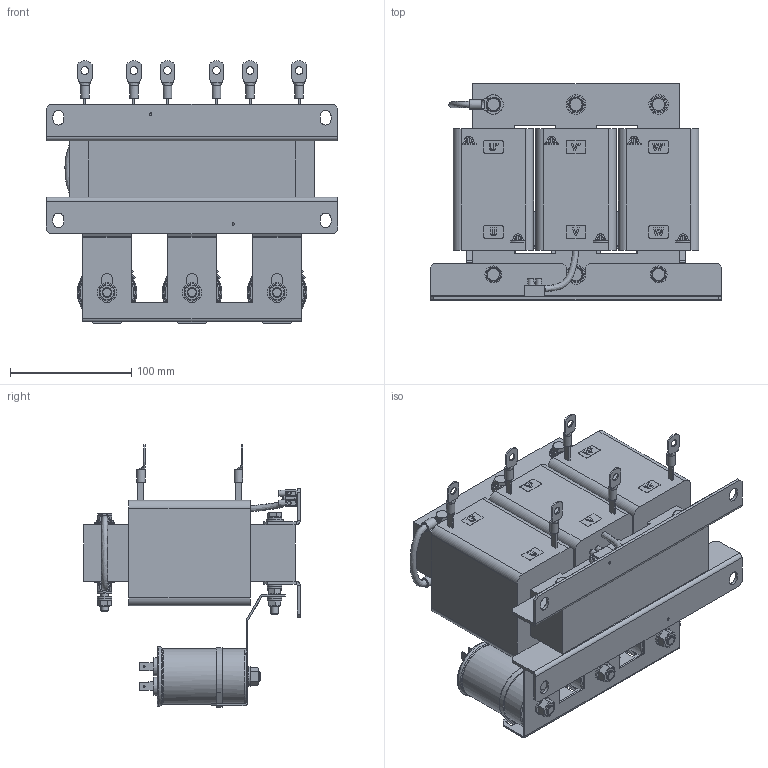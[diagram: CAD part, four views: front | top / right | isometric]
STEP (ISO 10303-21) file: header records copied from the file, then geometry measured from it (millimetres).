
FILE_DESCRIPTION(/* description */ (''),/* implementation_level */ '2;1');
FILE_NAME(/* name */ 'C:\Users\Erika.Jenzer\OneDrive - Schaffner EMV AG\BELLA\STEP FILES BELLA\FN\FN5420-32-92-E0XXT.stp',/* time_stamp */ '2021-07-12T08:38:44+02:00',/* author */ ('erika.jenzer'),/* organization */ (''),/* preprocessor_version */ 'ST-DEVELOPER v18.1',/* originating_system */ 'Autodesk Inventor 2020',/* authorisation */ '');
FILE_SCHEMA (('AUTOMOTIVE_DESIGN { 1 0 10303 214 3 1 1 }'));
Products named in the file (1): FN5420-32-92-E0XXT
Bounding box: 240 x 178 x 216.05 mm (x, y, z)
Volume: 2752456.4 mm3; surface area: 317341 mm2
Topology: 2 solids, 12 shells, 2143 faces, 5810 edges, 3879 vertices
Faces by surface type: plane 1501, cylinder 349, bspline 143, cone 121, torus 28, sphere 1
Full cylindrical faces by diameter (mm): 0.01 x2, 1.6 x12, 2.013 x2, 2.5 x1, 2.8 x5, 3.4 x4, 4.5 x6, 5.19 x2, 5.459 x2, 5.8 x2, 6 x21, 6.1 x7, 6.4 x22, 6.5 x2, 6.6 x10, 7 x6, 7.6 x5, 8 x7, 8.2 x2, 8.4 x3, 8.5 x4, 8.7 x6, 12 x14, 12.2 x6, 13 x1, 14 x5, 14.85 x6, 16 x7, 46 x3, 49 x3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
Entity records: 73842 total; most frequent: CARTESIAN_POINT 18765, ORIENTED_EDGE 11600, DIRECTION 10188, EDGE_CURVE 5800, VERTEX_POINT 3879, LINE 3592, VECTOR 3592, AXIS2_PLACEMENT_3D 3298
